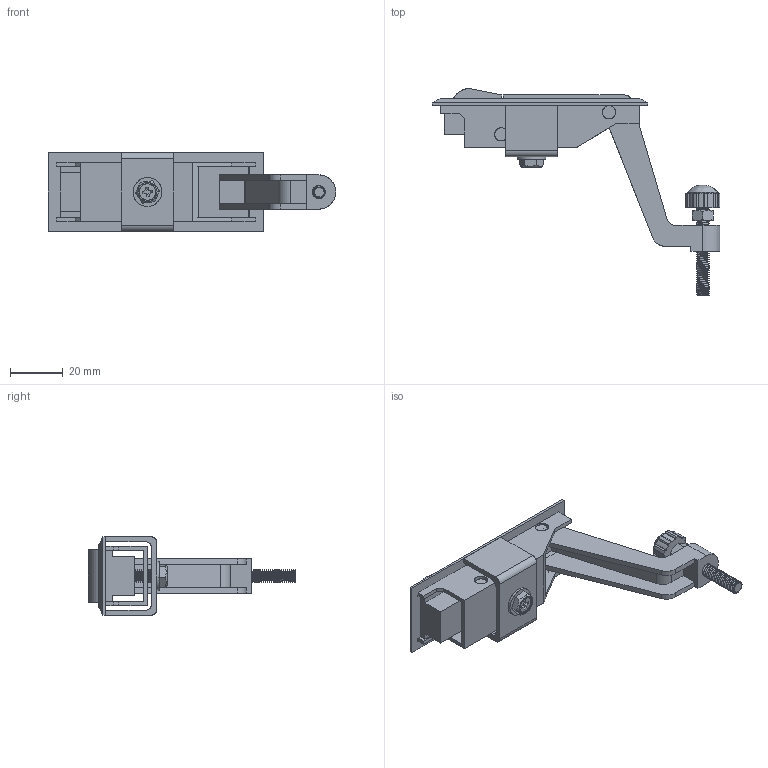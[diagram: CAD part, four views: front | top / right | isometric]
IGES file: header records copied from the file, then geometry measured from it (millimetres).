
Start section: SolidWorks IGES file using analytic representation for surfaces
Global section: file name: D:\尚坤工业图纸\SK1--门锁系列\SK1-061\SK1-061.IGS; native system: SolidWorks 2015; preprocessor: SolidWorks 2015; author: admin; date: 181101.103042; units: millimetre
Bounding box: 109.35 x 78.8 x 30 mm (x, y, z)
Surface area: 22963.6 mm2 (no closed solid volume)
Topology: 0 solids, 0 shells, 343 faces, 4710 edges, 4710 vertices
Faces by surface type: revolution 189, bspline 154
